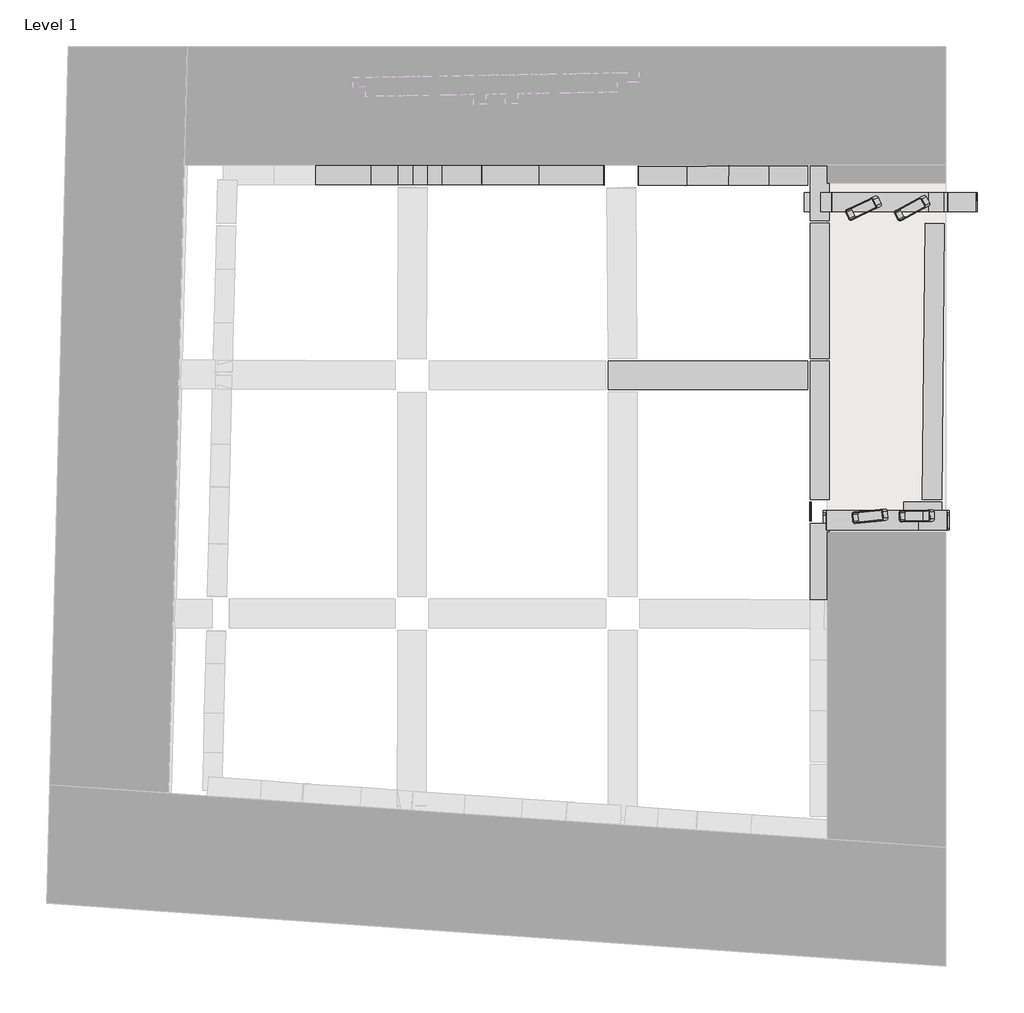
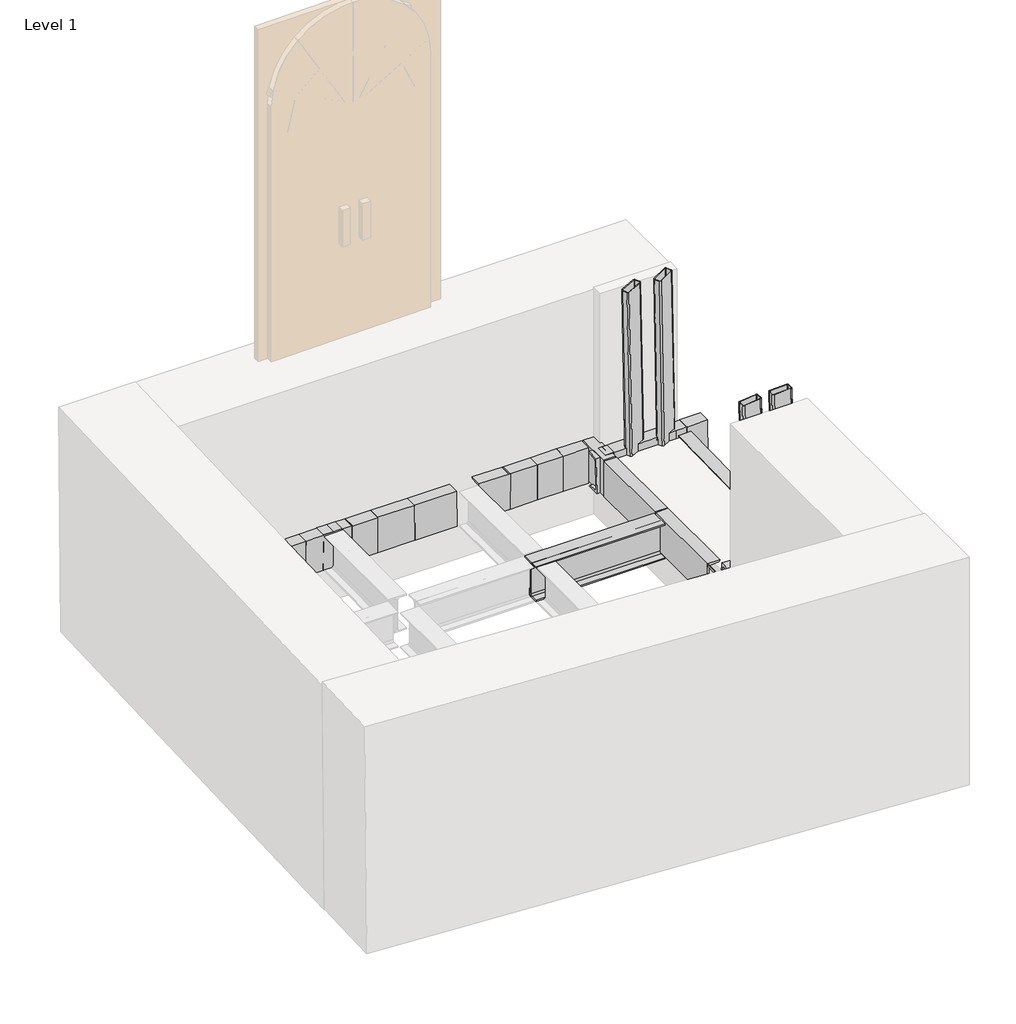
# One storey, part 2 of 2: 30 beams.
"""IFC4 building model written with IfcOpenShell, lengths in millimetres."""

from ifc_helpers import new_model, si_unit, point, frame, frame_2d, origin, place, context, project, spatial, polyline, circle_curve, ellipse_curve, trimmed, segment, composite_curve, outline, extrude, transform, mapped, element, save
from ifc_brep_helpers import plane_surface, cylinder_surface, revolved_surface, advanced_brep
from components import rectangular_and_square_hollow_sections_cefccb36, rectangular_and_square_hollow_sections_a6e25ca9, rectangular_and_square_hollow_sections_a873ca0a, rectangular_and_square_hollow_sections_d707e47e, travi_ipe_ipe300_d6dc1d4a, travi_ipe_ipe300_ce4784e4, travi_ipe_ipe300_c9cc1783, upn_upn300_07cd2886, upn_upn300_c2b881e5, upn_upn300_880bca7f, upn_upn300_fed2250c, upn_upn300_64b2cb6b, upn_upn300_74a305d1, upn_upn300_71728d14, upn_upn300_8f31fde6, upn_upn300_4b6d5451, upn_upn300_0a8c01f7, upn_upn300_1502331d, upn_upn300_e3bfa8e2, upn_upn300_8c717aac, upn_upn300_7125730d, upn_upn300_d5f8aff8, upn_upn300_71eba413

model = new_model("IFC4")

# Units and contexts
model_context = context("Model", 3, world=origin())
ifc_project = project(units=[si_unit("LENGTHUNIT", "METRE", prefix="MILLI")], contexts=[model_context])

# Site, building, storey
site = spatial("IfcSite", under=ifc_project)
building = spatial("IfcBuilding", under=site)
storey = spatial("IfcBuildingStorey", under=building, Name="Level 1", Elevation=-6640.0)

# Beams
placement = place(None, origin())
rectangular_and_square_hollow_sections_shape = rectangular_and_square_hollow_sections_cefccb36(model_context)
element("IfcBeam", 1, ObjectType="Rectangular and Square Hollow Sections : TREC160x60x6", at=placement, inside=storey, context=model_context, shape_type="MappedRepresentation", body=[
    mapped(rectangular_and_square_hollow_sections_shape, transform((3183.7188284, 259.2687084, -5886.258059), x_axis=(-0.022549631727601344, -0.0004992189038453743, 0.9997456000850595), y_axis=(0.022133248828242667, -0.9997550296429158, 0.0), z_axis=(0.9995006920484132, 0.0221276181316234, 0.022555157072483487))),
])
rectangular_and_square_hollow_sections_2_shape = rectangular_and_square_hollow_sections_a6e25ca9(model_context)
element("IfcBeam", 2, ObjectType="Rectangular and Square Hollow Sections : TREC160x60x6", at=placement, inside=storey, context=model_context, shape_type="MappedRepresentation", body=[
    mapped(rectangular_and_square_hollow_sections_2_shape, transform((2938.8993044, 257.8933349, -5888.378141), x_axis=(-0.02335436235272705, -0.0024253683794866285, 0.9997243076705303), y_axis=(0.10329523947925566, -0.9946507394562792, 0.0), z_axis=(0.99437652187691, 0.10326676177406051, 0.023479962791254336))),
])
rectangular_and_square_hollow_sections_3_shape = rectangular_and_square_hollow_sections_a873ca0a(model_context)
element("IfcBeam", 3, ObjectType="Rectangular and Square Hollow Sections : TREC160x60x6", at=placement, inside=storey, context=model_context, shape_type="MappedRepresentation", body=[
    mapped(rectangular_and_square_hollow_sections_3_shape, transform((3158.7757519, 1865.0672064, -5873.8420345), x_axis=(-0.02338648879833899, -0.012512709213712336, 0.9996481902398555), y_axis=(0.47175945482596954, -0.8817272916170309, 0.0), z_axis=(0.8814170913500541, 0.47159348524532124, 0.02652349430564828))),
])
rectangular_and_square_hollow_sections_4_shape = rectangular_and_square_hollow_sections_d707e47e(model_context)
element("IfcBeam", 4, ObjectType="Rectangular and Square Hollow Sections : TREC160x60x6", at=placement, inside=storey, context=model_context, shape_type="MappedRepresentation", body=[
    mapped(rectangular_and_square_hollow_sections_4_shape, transform((2904.5787599, 1865.8085669, -5880.730638), x_axis=(-0.024525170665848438, -0.011569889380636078, 0.9996322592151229), y_axis=(0.4266612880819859, -0.904411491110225, 0.0), z_axis=(0.9040789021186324, 0.42650438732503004, 0.02711727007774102))),
])
travi_ipe_ipe300_shape = travi_ipe_ipe300_d6dc1d4a(model_context)
element("IfcBeam", 5, ObjectType="Travi IPE : IPE300", at=placement, inside=storey, context=model_context, shape_type="MappedRepresentation", body=[
    mapped(travi_ipe_ipe300_shape, transform((2153.0244709, 993.0407309, -6640.0), x_axis=(1.0, 0.0, 0.0), y_axis=(0.0, 1.0, 0.0), z_axis=(0.0, 0.0, 1.0))),
])
travi_ipe_ipe300_2_shape = travi_ipe_ipe300_ce4784e4(model_context)
element("IfcBeam", 6, ObjectType="Travi IPE : IPE300", at=placement, inside=storey, context=model_context, shape_type="MappedRepresentation", body=[
    mapped(travi_ipe_ipe300_2_shape, transform((554.7545839, 2226.1737744, -6636.704172), x_axis=(1.1139964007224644e-07, -0.9999998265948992, 0.0005889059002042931), y_axis=(0.9999999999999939, 1.1139965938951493e-07, 0.0), z_axis=(-6.560391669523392e-11, 0.0005889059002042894, 0.9999998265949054))),
])
travi_ipe_ipe300_3_shape = travi_ipe_ipe300_c9cc1783(model_context)
element("IfcBeam", 7, ObjectType="Travi IPE : IPE300", at=placement, inside=storey, context=model_context, shape_type="MappedRepresentation", body=[
    mapped(travi_ipe_ipe300_3_shape, transform((1642.6296499, 2225.4560419, -6636.461382), x_axis=(1.3464367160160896e-07, -0.9999998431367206, -0.0005601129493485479), y_axis=(0.999999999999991, 1.3464369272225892e-07, 0.0), z_axis=(7.541567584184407e-11, -0.0005601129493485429, 0.9999998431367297))),
])
element("IfcBeam", 8, ObjectType="UPN : UPN300", at=placement, inside=storey, context=model_context, shape_type="AdvancedBrep", body=[
    advanced_brep(
    [(629.6569986, 1988.2216029, -6486.2416649), (632.8309692, 1988.2216029, -6786.2248743), (632.8309692, 2088.2216029, -6786.2248743), (632.7821178, 2088.2216029, -6781.6077551), (632.6977477, 2080.8590189, -6773.6336356), (632.6403168, 2012.9467709, -6768.2056371), (632.4715765, 1998.2216029, -6752.257398), (630.0163913, 1998.2216029, -6520.2091411), (629.847651, 2012.9467709, -6504.260902), (629.7902201, 2080.8590189, -6498.8329036), (629.70585, 2088.2216029, -6490.858784), (629.6569986, 2088.2216029, -6486.2416649), (337.1898446, 1988.2216029, -6489.336112), (339.1182482, 1988.2216029, -6789.3325), (339.1182482, 2088.2216029, -6789.3325), (339.0885676, 2088.2216029, -6784.7151781), (339.037307, 2080.8590189, -6776.7407082), (339.0024138, 2012.9467709, -6771.3124713), (338.8998926, 1998.2216029, -6755.3635316), (337.4082002, 1998.2216029, -6523.3050804), (337.305679, 2012.9467709, -6507.3561407), (337.2707858, 2080.8590189, -6501.9279038), (337.2195252, 2088.2216029, -6493.9534339), (337.1898446, 2088.2216029, -6489.336112)],
    [
        (0, 1),
        (1, 2),
        (2, 3),
        (3, 4, circle_curve(frame((632.7821178, 2080.2216029, -6781.6077551), z_axis=(0.9999440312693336, 0.0, 0.010579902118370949), x_axis=(0.0, 1.0, 0.0)), 8.0)),
        (4, 5),
        (5, 6, circle_curve(frame((632.4715765, 2014.2216029, -6752.257398), z_axis=(-0.9999440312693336, 0.0, -0.010579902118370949), x_axis=(0.0, 1.0, 0.0)), 16.0)),
        (6, 7),
        (7, 8, circle_curve(frame((630.0163913, 2014.2216029, -6520.2091411), z_axis=(-0.9999440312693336, 0.0, -0.010579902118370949), x_axis=(0.0, 1.0, 0.0)), 16.0)),
        (8, 9),
        (9, 10, circle_curve(frame((629.70585, 2080.2216029, -6490.858784), z_axis=(0.9999440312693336, 0.0, 0.010579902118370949), x_axis=(0.0, 1.0, 0.0)), 8.0)),
        (10, 11),
        (11, 0),
        (0, 12),
        (12, 13),
        (13, 1),
        (13, 14),
        (14, 2),
        (14, 15),
        (15, 3),
        (15, 16, ellipse_curve(frame((339.0885676, 2080.2216029, -6784.7151781), z_axis=(0.9999793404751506, 0.0, 0.006427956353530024), x_axis=(-0.0064279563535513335, 0.0, 0.9999793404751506)), 8.000069, 8.0)),
        (16, 4),
        (16, 17),
        (17, 5),
        (17, 18, ellipse_curve(frame((338.8998926, 2014.2216029, -6755.3635316), z_axis=(-0.9999793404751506, 0.0, -0.006427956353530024), x_axis=(0.0064279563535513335, 0.0, -0.9999793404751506)), 16.0001379, 16.0)),
        (18, 6),
        (18, 19),
        (19, 7),
        (19, 20, ellipse_curve(frame((337.4082002, 2014.2216029, -6523.3050804), z_axis=(-0.9999793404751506, 0.0, -0.006427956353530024), x_axis=(0.0064279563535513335, 0.0, -0.9999793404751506)), 16.0001379, 16.0)),
        (20, 8),
        (20, 21),
        (21, 9),
        (21, 22, ellipse_curve(frame((337.2195252, 2080.2216029, -6493.9534339), z_axis=(0.9999793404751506, 0.0, 0.006427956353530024), x_axis=(-0.0064279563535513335, 0.0, 0.9999793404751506)), 8.000069, 8.0)),
        (22, 10),
        (22, 23),
        (23, 11),
        (23, 12),
    ],
    [
        plane_surface(frame((631.2439839, 2015.2216029, -6636.2332696), z_axis=(0.9999440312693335, 0.0, 0.010579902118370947), x_axis=(-0.010579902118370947, 0.0, 0.9999440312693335))),
        plane_surface(frame((629.6569986, 1988.2216029, -6486.2416649), z_axis=(0.0, -1.0000000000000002, 0.0), x_axis=(-0.9999440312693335, 0.0, -0.010579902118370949))),
        plane_surface(frame((632.8309692, 1988.2216029, -6786.2248743), z_axis=(0.010579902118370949, 0.0, -0.9999440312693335), x_axis=(-0.9999440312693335, 0.0, -0.010579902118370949))),
        plane_surface(frame((632.8309692, 2088.2216029, -6786.2248743), z_axis=(0.0, 1.0000000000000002, 0.0), x_axis=(-0.9999440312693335, 0.0, -0.010579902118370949))),
        cylinder_surface(frame((632.7821178, 2080.2216029, -6781.6077551), z_axis=(0.9999440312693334, 0.0, 0.010579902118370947), x_axis=(0.0, 1.0, 0.0)), 8.0),
        plane_surface(frame((632.6616908, 2038.2216029, -6770.2257698), z_axis=(-0.010546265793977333, 0.07967700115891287, 0.9967649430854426), x_axis=(-0.9999440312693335, 0.0, -0.010579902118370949))),
        revolved_surface(polyline([(338.83346235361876, 2030.2216029, -6755.364234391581), (632.4715765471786, 2030.2216029, -6752.2573979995)]), (632.4715765, 2014.2216029, -6752.257398), (-0.9999440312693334, 0.0, -0.010579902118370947)),
        plane_surface(frame((632.4715765, 1998.2216029, -6752.257398), z_axis=(0.0, 1.0000000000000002, 0.0), x_axis=(-0.9999440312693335, 0.0, -0.010579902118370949))),
        revolved_surface(polyline([(337.34176995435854, 2030.2216029, -6523.3057832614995), (630.0163913, 2030.2216029, -6520.2091411)]), (630.0163913, 2014.2216029, -6520.2091411), (-0.9999440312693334, 0.0, -0.010579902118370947)),
        plane_surface(frame((629.826277, 2038.2216029, -6502.2407694), z_axis=(0.010546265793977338, 0.07967700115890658, -0.9967649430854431), x_axis=(-0.9999440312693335, 0.0, -0.010579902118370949))),
        cylinder_surface(frame((629.70585, 2080.2216029, -6490.858784), z_axis=(0.9999440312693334, 0.0, 0.010579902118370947), x_axis=(0.0, 1.0, 0.0)), 8.0),
        plane_surface(frame((629.70585, 2088.2216029, -6490.858784), z_axis=(0.0, 1.0000000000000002, 0.0), x_axis=(-0.9999440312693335, 0.0, -0.010579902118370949))),
        plane_surface(frame((629.6569986, 2088.2216029, -6486.2416649), z_axis=(-0.010579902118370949, 0.0, 0.9999440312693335), x_axis=(-0.9999440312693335, 0.0, -0.010579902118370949))),
        plane_surface(frame((337.1898446, 2015.2216029, -6489.336112), z_axis=(-0.9999793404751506, 0.0, -0.006427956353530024), x_axis=(0.006427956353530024, 0.0, -0.9999793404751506))),
    ],
    [
        (0, [[1, 2, 3, 4, 5, 6, 7, 8, 9, 10, 11, 12]]),
        (1, [[-1, 13, 14, 15]]),
        (2, [[-2, -15, 16, 17]]),
        (3, [[-3, -17, 18, 19]]),
        (4, [[-4, -19, 20, 21]]),
        (5, [[-21, 22, 23, -5]]),
        (6, [[-6, -23, 24, 25]]),
        (7, [[-7, -25, 26, 27]]),
        (8, [[-8, -27, 28, 29]]),
        (9, [[-29, 30, 31, -9]]),
        (10, [[-10, -31, 32, 33]]),
        (11, [[-11, -33, 34, 35]]),
        (12, [[-12, -35, 36, -13]]),
        (13, [[-36, -34, -32, -30, -28, -26, -24, -22, -20, -18, -16, -14]]),
    ],
),
])
element("IfcBeam", 9, ObjectType="UPN : UPN300", at=placement, inside=storey, context=model_context, shape_type="AdvancedBrep", body=[
    advanced_brep(
    [(339.1182482, 1988.2216029, -6789.3325), (337.1898446, 1988.2216029, -6489.336112), (45.4870477, 1988.2216029, -6490.0), (45.8284331, 1988.2216029, -6790.0), (339.1182482, 2088.2216029, -6789.3325), (45.8284331, 2088.2216029, -6790.0), (339.0885676, 2088.2216029, -6784.7151781), (45.8231788, 2088.2216029, -6785.3826224), (339.037307, 2080.8590189, -6776.7407082), (45.8141041, 2080.8590189, -6777.4080566), (45.807927, 2012.9467709, -6771.9797543), (339.0024138, 2012.9467709, -6771.3124713), (338.8998926, 1998.2216029, -6755.3635316), (45.7897776, 1998.2216029, -6756.0306225), (337.4082002, 1998.2216029, -6523.3050804), (45.5257032, 1998.2216029, -6523.9693775), (337.305679, 2012.9467709, -6507.3561407), (45.5075539, 2012.9467709, -6508.0202457), (45.5013767, 2080.8590189, -6502.5919434), (337.2707858, 2080.8590189, -6501.9279038), (337.2195252, 2088.2216029, -6493.9534339), (45.4923021, 2088.2216029, -6494.6173776), (337.1898446, 2088.2216029, -6489.336112), (45.4870477, 2088.2216029, -6490.0)],
    [
        (0, 1),
        (1, 2),
        (2, 3),
        (3, 0),
        (4, 0),
        (3, 5),
        (5, 4),
        (6, 4),
        (5, 7),
        (7, 6),
        (8, 6, ellipse_curve(frame((339.0885676, 2080.2216029, -6784.7151781), z_axis=(-0.9999793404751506, 0.0, -0.006427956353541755), x_axis=(0.006427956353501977, 0.0, -0.9999793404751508)), 8.000069, 8.0)),
        (7, 9, ellipse_curve(frame((45.8231788, 2080.2216029, -6785.3826224), z_axis=(0.9999993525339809, 0.0, 0.0011379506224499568), x_axis=(-0.0011379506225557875, 0.0, 0.9999993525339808)), 8.0000052, 8.0)),
        (9, 8),
        (9, 10),
        (10, 11),
        (11, 8),
        (12, 11, ellipse_curve(frame((338.8998926, 2014.2216029, -6755.3635316), z_axis=(0.9999793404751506, 0.0, 0.006427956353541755), x_axis=(-0.006427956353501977, 0.0, 0.9999793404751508)), 16.0001379, 16.0)),
        (10, 13, ellipse_curve(frame((45.7897776, 2014.2216029, -6756.0306225), z_axis=(-0.9999993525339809, 0.0, -0.0011379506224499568), x_axis=(0.0011379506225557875, 0.0, -0.9999993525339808)), 16.0000104, 16.0)),
        (13, 12),
        (14, 12),
        (13, 15),
        (15, 14),
        (16, 14, ellipse_curve(frame((337.4082002, 2014.2216029, -6523.3050804), z_axis=(0.9999793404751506, 0.0, 0.006427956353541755), x_axis=(-0.006427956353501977, 0.0, 0.9999793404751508)), 16.0001379, 16.0)),
        (15, 17, ellipse_curve(frame((45.5257032, 2014.2216029, -6523.9693775), z_axis=(-0.9999993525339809, 0.0, -0.0011379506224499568), x_axis=(0.0011379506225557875, 0.0, -0.9999993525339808)), 16.0000104, 16.0)),
        (17, 16),
        (17, 18),
        (18, 19),
        (19, 16),
        (20, 19, ellipse_curve(frame((337.2195252, 2080.2216029, -6493.9534339), z_axis=(-0.9999793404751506, 0.0, -0.006427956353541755), x_axis=(0.006427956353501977, 0.0, -0.9999793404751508)), 8.000069, 8.0)),
        (18, 21, ellipse_curve(frame((45.4923021, 2080.2216029, -6494.6173776), z_axis=(0.9999993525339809, 0.0, 0.0011379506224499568), x_axis=(-0.0011379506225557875, 0.0, 0.9999993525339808)), 8.0000052, 8.0)),
        (21, 20),
        (22, 20),
        (21, 23),
        (23, 22),
        (1, 22),
        (23, 2),
    ],
    [
        plane_surface(frame((337.7641298, 1988.2216029, -6489.3348049), z_axis=(0.0, -1.0, 0.0), x_axis=(-0.9999974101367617, 0.0, -0.0022758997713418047))),
        plane_surface(frame((338.4468997, 1988.2216029, -6789.334028), z_axis=(0.0022758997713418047, 0.0, -0.9999974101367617), x_axis=(-0.9999974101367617, 0.0, -0.0022758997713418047))),
        plane_surface(frame((338.4468997, 2088.2216029, -6789.334028), z_axis=(0.0, 1.0, 0.0), x_axis=(-0.9999974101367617, 0.0, -0.0022758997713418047))),
        cylinder_surface(frame((338.436391, 2080.2216029, -6784.7166624), z_axis=(0.9999974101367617, 0.0, 0.0022758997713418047), x_axis=(0.0, 1.0, 0.0)), 8.0),
        plane_surface(frame((338.4104853, 2038.2216029, -6773.3340694), z_axis=(-0.0022686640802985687, 0.07967700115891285, 0.9968181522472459), x_axis=(-0.9999974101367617, 0.0, -0.0022758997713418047))),
        revolved_surface(polyline([(45.771570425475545, 2030.2216029, -6756.03066398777), (338.96632639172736, 2030.2216029, -6755.363380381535)]), (338.3695888, 2014.2216029, -6755.3647385), (-0.9999974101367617, 0.0, -0.0022758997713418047)),
        plane_surface(frame((338.3695888, 1998.2216029, -6755.3647385), z_axis=(0.0, 1.0, 0.0), x_axis=(-0.9999974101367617, 0.0, -0.0022758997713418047))),
        revolved_surface(polyline([(45.507496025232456, 2030.2216029, -6523.969418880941), (337.4746339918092, 2030.2216029, -6523.3049292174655)]), (337.8414407, 2014.2216029, -6523.3040944), (-0.9999974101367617, 0.0, -0.0022758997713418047)),
        plane_surface(frame((337.8005442, 2038.2216029, -6505.3347635), z_axis=(0.00226866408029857, 0.07967700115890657, -0.9968181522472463), x_axis=(-0.9999974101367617, 0.0, -0.0022758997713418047))),
        cylinder_surface(frame((337.7746385, 2080.2216029, -6493.9521705), z_axis=(0.9999974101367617, 0.0, 0.0022758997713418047), x_axis=(0.0, 1.0, 0.0)), 8.0),
        plane_surface(frame((337.7746385, 2088.2216029, -6493.9521705), z_axis=(0.0, 1.0, 0.0), x_axis=(-0.9999974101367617, 0.0, -0.0022758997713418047))),
        plane_surface(frame((337.7641298, 2088.2216029, -6489.3348049), z_axis=(-0.0022758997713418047, 0.0, 0.9999974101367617), x_axis=(-0.9999974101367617, 0.0, -0.0022758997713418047))),
        plane_surface(frame((337.1898446, 2015.2216029, -6489.336112), z_axis=(0.9999793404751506, 0.0, 0.006427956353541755), x_axis=(0.006427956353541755, 0.0, -0.9999793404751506))),
        plane_surface(frame((45.4870477, 2015.2216029, -6490.0), z_axis=(-0.9999993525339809, 0.0, -0.0011379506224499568), x_axis=(0.0, 1.0, 0.0))),
    ],
    [
        (0, [[1, 2, 3, 4]]),
        (1, [[5, -4, 6, 7]]),
        (2, [[8, -7, 9, 10]]),
        (3, [[11, -10, 12, 13]]),
        (4, [[-13, 14, 15, 16]]),
        (5, [[17, -15, 18, 19]]),
        (6, [[20, -19, 21, 22]]),
        (7, [[23, -22, 24, 25]]),
        (8, [[-25, 26, 27, 28]]),
        (9, [[29, -27, 30, 31]]),
        (10, [[32, -31, 33, 34]]),
        (11, [[35, -34, 36, -2]]),
        (12, [[-1, -5, -8, -11, -16, -17, -20, -23, -28, -29, -32, -35]]),
        (13, [[-36, -33, -30, -26, -24, -21, -18, -14, -12, -9, -6, -3]]),
    ],
),
])
element("IfcBeam", 10, ObjectType="UPN : UPN300", at=placement, inside=storey, context=model_context, shape_type="SweptSolid", body=[
    extrude(outline(composite_curve([segment(polyline([(150.0000001, 27.0), (150.0000001, -73.0), (145.3826224, -73.0)]), True, "CONTINUOUS"), segment(trimmed(circle_curve(frame_2d((145.3826224, -65.0)), 8.0), [point((145.3826224, -73.0))], [point((137.4080565, -65.637416))], False, "CARTESIAN"), True, "CONTINUOUS"), segment(polyline([(137.4080565, -65.637416), (131.9797543, 2.274832)]), True, "CONTINUOUS"), segment(trimmed(circle_curve(frame_2d((116.0306225, 1.0)), 16.0), [point((131.9797543, 2.274832))], [point((116.0306225, 17.0))], True, "CARTESIAN"), True, "CONTINUOUS"), segment(polyline([(116.0306225, 17.0), (-116.0306225, 17.0)]), True, "CONTINUOUS"), segment(trimmed(circle_curve(frame_2d((-116.0306225, 1.0)), 16.0), [point((-116.0306225, 17.0))], [point((-131.9797543, 2.274832))], True, "CARTESIAN"), True, "CONTINUOUS"), segment(polyline([(-131.9797543, 2.274832), (-137.4080565, -65.637416)]), True, "CONTINUOUS"), segment(trimmed(circle_curve(frame_2d((-145.3826224, -65.0)), 8.0), [point((-137.4080565, -65.637416))], [point((-145.3826224, -73.0))], False, "CARTESIAN"), True, "CONTINUOUS"), segment(polyline([(-145.3826224, -73.0), (-150.0, -73.0), (-150.0, 27.0), (150.0000001, 27.0)]), True, "CONTINUOUS")], self_intersect=False)), frame((2627.5154128, 259.6427499, -6640.2436916), z_axis=(0.9999631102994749, 0.0, 0.00858941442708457), x_axis=(-0.00858941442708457, 0.0, 0.9999631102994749)), (0.0, 0.0, 1.0), 5.5),
])
element("IfcBeam", 11, ObjectType="UPN : UPN300", at=placement, inside=storey, context=model_context, shape_type="SweptSolid", body=[
    extrude(outline(composite_curve([segment(polyline([(149.9999999, -27.0), (-150.0, -27.0), (-150.0, 73.0), (-145.3826225, 73.0)]), True, "CONTINUOUS"), segment(trimmed(circle_curve(frame_2d((-145.3826225, 65.0)), 8.0), [point((-145.3826225, 73.0))], [point((-137.4080566, 65.637416))], False, "CARTESIAN"), True, "CONTINUOUS"), segment(polyline([(-137.4080566, 65.637416), (-131.9797543, -2.274832)]), True, "CONTINUOUS"), segment(trimmed(circle_curve(frame_2d((-116.0306226, -1.0)), 16.0), [point((-131.9797543, -2.274832))], [point((-116.0306226, -17.0))], True, "CARTESIAN"), True, "CONTINUOUS"), segment(polyline([(-116.0306226, -17.0), (116.0306225, -17.0)]), True, "CONTINUOUS"), segment(trimmed(circle_curve(frame_2d((116.0306225, -1.0)), 16.0), [point((116.0306225, -17.0))], [point((131.9797542, -2.274832))], True, "CARTESIAN"), True, "CONTINUOUS"), segment(polyline([(131.9797542, -2.274832), (137.4080565, 65.637416)]), True, "CONTINUOUS"), segment(trimmed(circle_curve(frame_2d((145.3826224, 65.0)), 8.0), [point((137.4080565, 65.637416))], [point((145.3826224, 73.0))], False, "CARTESIAN"), True, "CONTINUOUS"), segment(polyline([(145.3826224, 73.0), (149.9999999, 73.0), (149.9999999, -27.0)]), True, "CONTINUOUS")], self_intersect=False)), frame((3200.4106612, 259.6427499, -6635.3232233), z_axis=(0.999466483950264, 0.0, 0.032661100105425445), x_axis=(-0.032661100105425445, 0.0, 0.999466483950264)), (0.0, 0.0, 1.0), 148.8),
])
element("IfcBeam", 12, ObjectType="UPN : UPN300", at=placement, inside=storey, context=model_context, shape_type="SweptSolid", body=[
    extrude(outline(composite_curve([segment(polyline([(150.0, 27.0), (150.0, -73.0), (145.3826224, -73.0)]), True, "CONTINUOUS"), segment(trimmed(circle_curve(frame_2d((145.3826224, -65.0)), 8.0), [point((145.3826224, -73.0))], [point((137.4080566, -65.637416))], False, "CARTESIAN"), True, "CONTINUOUS"), segment(polyline([(137.4080566, -65.637416), (131.9797543, 2.274832)]), True, "CONTINUOUS"), segment(trimmed(circle_curve(frame_2d((116.0306225, 1.0)), 16.0), [point((131.9797543, 2.274832))], [point((116.0306225, 17.0))], True, "CARTESIAN"), True, "CONTINUOUS"), segment(polyline([(116.0306225, 17.0), (-116.0306225, 17.0)]), True, "CONTINUOUS"), segment(trimmed(circle_curve(frame_2d((-116.0306225, 1.0)), 16.0), [point((-116.0306225, 17.0))], [point((-131.9797542, 2.274832))], True, "CARTESIAN"), True, "CONTINUOUS"), segment(polyline([(-131.9797542, 2.274832), (-137.4080566, -65.637416)]), True, "CONTINUOUS"), segment(trimmed(circle_curve(frame_2d((-145.3826224, -65.0)), 8.0), [point((-137.4080566, -65.637416))], [point((-145.3826224, -73.0))], False, "CARTESIAN"), True, "CONTINUOUS"), segment(polyline([(-145.3826224, -73.0), (-150.0, -73.0), (-150.0, 27.0), (150.0, 27.0)]), True, "CONTINUOUS")], self_intersect=False)), frame((3331.6065302, 1874.5425779, -6628.1046716), z_axis=(0.9998450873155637, 0.0, 0.017601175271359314), x_axis=(-0.017601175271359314, 0.0, 0.9998450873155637)), (0.0, 0.0, 1.0), 167.1),
])
element("IfcBeam", 13, ObjectType="UPN : UPN300", at=placement, inside=storey, context=model_context, shape_type="SweptSolid", body=[
    extrude(outline(composite_curve([segment(polyline([(150.0, 27.0), (150.0, -73.0), (145.3826225, -73.0)]), True, "CONTINUOUS"), segment(trimmed(circle_curve(frame_2d((145.3826225, -65.0)), 8.0), [point((145.3826225, -73.0))], [point((137.4080566, -65.637416))], False, "CARTESIAN"), True, "CONTINUOUS"), segment(polyline([(137.4080566, -65.637416), (131.9797544, 2.274832)]), True, "CONTINUOUS"), segment(trimmed(circle_curve(frame_2d((116.0306225, 1.0)), 16.0), [point((131.9797544, 2.274832))], [point((116.0306225, 17.0))], True, "CARTESIAN"), True, "CONTINUOUS"), segment(polyline([(116.0306225, 17.0), (-116.0306225, 17.0)]), True, "CONTINUOUS"), segment(trimmed(circle_curve(frame_2d((-116.0306225, 1.0)), 16.0), [point((-116.0306225, 17.0))], [point((-131.9797543, 2.274832))], True, "CARTESIAN"), True, "CONTINUOUS"), segment(polyline([(-131.9797543, 2.274832), (-137.4080565, -65.637416)]), True, "CONTINUOUS"), segment(trimmed(circle_curve(frame_2d((-145.3826224, -65.0)), 8.0), [point((-137.4080565, -65.637416))], [point((-145.3826224, -73.0))], False, "CARTESIAN"), True, "CONTINUOUS"), segment(polyline([(-145.3826224, -73.0), (-149.9999999, -73.0), (-149.9999999, 27.0), (150.0, 27.0)]), True, "CONTINUOUS")], self_intersect=False)), frame((3278.0405389, 259.6427499, -6653.7077167), z_axis=(-0.9987262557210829, 0.0, 0.05045657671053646), x_axis=(0.05045657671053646, 0.0, 0.9987262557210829)), (0.0, 0.0, 1.0), 574.5),
])
element("IfcBeam", 14, ObjectType="UPN : UPN300", at=placement, inside=storey, context=model_context, shape_type="SweptSolid", body=[
    extrude(outline(composite_curve([segment(polyline([(150.0, 27.0), (150.0, -73.0), (145.3826224, -73.0)]), True, "CONTINUOUS"), segment(trimmed(circle_curve(frame_2d((145.3826224, -65.0)), 8.0), [point((145.3826224, -73.0))], [point((137.4080566, -65.637416))], False, "CARTESIAN"), True, "CONTINUOUS"), segment(polyline([(137.4080566, -65.637416), (131.9797543, 2.274832)]), True, "CONTINUOUS"), segment(trimmed(circle_curve(frame_2d((116.0306225, 1.0)), 16.0), [point((131.9797543, 2.274832))], [point((116.0306225, 17.0))], True, "CARTESIAN"), True, "CONTINUOUS"), segment(polyline([(116.0306225, 17.0), (-116.0306226, 17.0)]), True, "CONTINUOUS"), segment(trimmed(circle_curve(frame_2d((-116.0306226, 1.0)), 16.0), [point((-116.0306226, 17.0))], [point((-131.9797543, 2.274832))], True, "CARTESIAN"), True, "CONTINUOUS"), segment(polyline([(-131.9797543, 2.274832), (-137.4080566, -65.637416)]), True, "CONTINUOUS"), segment(trimmed(circle_curve(frame_2d((-145.3826225, -65.0)), 8.0), [point((-137.4080566, -65.637416))], [point((-145.3826225, -73.0))], False, "CARTESIAN"), True, "CONTINUOUS"), segment(polyline([(-145.3826225, -73.0), (-150.0, -73.0), (-150.0, 27.0), (150.0, 27.0)]), True, "CONTINUOUS")], self_intersect=False)), frame((3175.9892952, 1874.5425779, -6630.8441637), z_axis=(0.9998335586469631, 0.0, 0.018244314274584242), x_axis=(-0.018244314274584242, 0.0, 0.9998335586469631)), (0.0, 0.0, 1.0), 173.3),
])
upn_upn300_shape = upn_upn300_07cd2886(model_context)
element("IfcBeam", 15, ObjectType="UPN : UPN300", at=placement, inside=storey, context=model_context, shape_type="MappedRepresentation", body=[
    mapped(upn_upn300_shape, transform((639.4776059, 2015.2716654, -6638.409257), x_axis=(-0.9997668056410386, -0.0005907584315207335, 0.021586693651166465), y_axis=(0.0005908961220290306, -0.9999998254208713, 0.0), z_axis=(0.021586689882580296, 1.275549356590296e-05, 0.999766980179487))),
])
upn_upn300_2_shape = upn_upn300_c2b881e5(model_context)
element("IfcBeam", 16, ObjectType="UPN : UPN300", at=placement, inside=storey, context=model_context, shape_type="MappedRepresentation", body=[
    mapped(upn_upn300_2_shape, transform((3243.2475989, 259.6427119, -6634.9547495), x_axis=(-0.9999631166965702, 8.875234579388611e-07, -0.00858866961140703), y_axis=(-8.875561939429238e-07, -0.9999999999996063, 0.0), z_axis=(-0.008588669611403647, 7.622926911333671e-09, 0.9999631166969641))),
])
upn_upn300_3_shape = upn_upn300_880bca7f(model_context)
element("IfcBeam", 17, ObjectType="UPN : UPN300", at=placement, inside=storey, context=model_context, shape_type="MappedRepresentation", body=[
    mapped(upn_upn300_3_shape, transform((3294.3903334, 1067.0926259, -6631.600113), x_axis=(-0.01031400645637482, -0.9999399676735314, -0.0036989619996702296), y_axis=(0.999946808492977, -0.010314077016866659, 0.0), z_axis=(-3.8151378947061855e-05, -0.0036987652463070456, 0.9999931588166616))),
])
upn_upn300_4_shape = upn_upn300_fed2250c(model_context)
element("IfcBeam", 18, ObjectType="UPN : UPN300", at=placement, inside=storey, context=model_context, shape_type="MappedRepresentation", body=[
    mapped(upn_upn300_4_shape, transform((2655.8855194, 1433.7916544, -6640.0), x_axis=(0.0, 1.0, 0.0), y_axis=(-1.0, 0.0, 0.0), z_axis=(0.0, 0.0, 1.0))),
])
upn_upn300_5_shape = upn_upn300_64b2cb6b(model_context)
element("IfcBeam", 19, ObjectType="UPN : UPN300", at=placement, inside=storey, context=model_context, shape_type="MappedRepresentation", body=[
    mapped(upn_upn300_5_shape, transform((2655.8855194, 626.3417404, -6640.0), x_axis=(0.0, 1.0, 0.0), y_axis=(-1.0, 0.0, 0.0), z_axis=(0.0, 0.0, 1.0))),
])
upn_upn300_6_shape = upn_upn300_74a305d1(model_context)
element("IfcBeam", 20, ObjectType="UPN : UPN300", at=placement, inside=storey, context=model_context, shape_type="MappedRepresentation", body=[
    mapped(upn_upn300_6_shape, transform((2529.0912094, 2013.3156799, -6640.0), x_axis=(-0.9999976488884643, 0.002168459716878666, 0.0), y_axis=(-0.002168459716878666, -0.9999976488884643, 0.0), z_axis=(0.0, 0.0, 1.0))),
])
upn_upn300_7_shape = upn_upn300_71728d14(model_context)
element("IfcBeam", 21, ObjectType="UPN : UPN300", at=placement, inside=storey, context=model_context, shape_type="MappedRepresentation", body=[
    mapped(upn_upn300_7_shape, transform((2655.8855194, 1943.7916544, -6640.0), x_axis=(0.0, 1.0, 0.0), y_axis=(-1.0, 0.0, 0.0), z_axis=(0.0, 0.0, 1.0))),
])
upn_upn300_8_shape = upn_upn300_8f31fde6(model_context)
element("IfcBeam", 22, ObjectType="UPN : UPN300", at=placement, inside=storey, context=model_context, shape_type="MappedRepresentation", body=[
    mapped(upn_upn300_8_shape, transform((2974.8360539, 1874.5422979, -6634.433306), x_axis=(0.9998610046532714, 5.410436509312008e-06, 0.01667247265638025), y_axis=(-5.411188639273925e-06, 0.9999999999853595, 0.0), z_axis=(-0.016672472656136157, -9.021789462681e-08, 0.99986100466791))),
])
upn_upn300_9_shape = upn_upn300_4b6d5451(model_context)
element("IfcBeam", 23, ObjectType="UPN : UPN300", at=placement, inside=storey, context=model_context, shape_type="MappedRepresentation", body=[
    mapped(upn_upn300_9_shape, transform((2789.4884674, 1874.5422979, -6637.6480685), x_axis=(0.9998450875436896, -2.0954374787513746e-06, 0.017601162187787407), y_axis=(2.095762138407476e-06, 0.999999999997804, 0.0), z_axis=(-0.017601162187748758, 3.688784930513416e-08, 0.9998450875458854))),
])
upn_upn300_10_shape = upn_upn300_0a8c01f7(model_context)
element("IfcBeam", 24, ObjectType="UPN : UPN300", at=placement, inside=storey, context=model_context, shape_type="MappedRepresentation", body=[
    mapped(upn_upn300_10_shape, transform((1436.6881124, 2014.6605484, -6638.663142), x_axis=(-0.999939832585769, 0.004245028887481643, -0.010114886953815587), y_axis=(-0.004245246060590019, -0.9999909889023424, 0.0), z_axis=(-0.010114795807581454, 4.2940183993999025e-05, 0.9999488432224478))),
])
upn_upn300_11_shape = upn_upn300_1502331d(model_context)
element("IfcBeam", 25, ObjectType="UPN : UPN300", at=placement, inside=storey, context=model_context, shape_type="MappedRepresentation", body=[
    mapped(upn_upn300_11_shape, transform((1079.8565944, 2015.2840169, -6640.148718), x_axis=(-0.9999907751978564, -0.0016622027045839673, 0.003960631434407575), y_axis=(0.0016622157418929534, -0.9999986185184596, 0.0), z_axis=(0.003960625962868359, 6.583423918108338e-06, 0.9999921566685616))),
])
upn_upn300_12_shape = upn_upn300_e3bfa8e2(model_context)
element("IfcBeam", 26, ObjectType="UPN : UPN300", at=placement, inside=storey, context=model_context, shape_type="MappedRepresentation", body=[
    mapped(upn_upn300_12_shape, transform((826.5836234, 2015.1774664, -6639.894833), x_axis=(-0.9999933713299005, 0.0014090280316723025, -0.0033573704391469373), y_axis=(-0.0014090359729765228, -0.9999990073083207, 0.0), z_axis=(-0.003357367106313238, 4.73065572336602e-06, 0.999994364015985))),
])
upn_upn300_13_shape = upn_upn300_8c717aac(model_context)
element("IfcBeam", 27, ObjectType="UPN : UPN300", at=placement, inside=storey, context=model_context, shape_type="MappedRepresentation", body=[
    mapped(upn_upn300_13_shape, transform((1800.1540464, 2012.3880734, -6638.2899705), x_axis=(-0.9999016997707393, 0.00887517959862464, 0.010854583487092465), y_axis=(-0.008875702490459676, -0.9999606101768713, 0.0), z_axis=(0.010854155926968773, -9.634205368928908e-05, 0.9999410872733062))),
])
upn_upn300_14_shape = upn_upn300_7125730d(model_context)
element("IfcBeam", 28, ObjectType="UPN : UPN300", at=placement, inside=storey, context=model_context, shape_type="MappedRepresentation", body=[
    mapped(upn_upn300_14_shape, transform((2074.5966109, 2012.5187904, -6640.0), x_axis=(-0.9999145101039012, -0.013075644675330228, 0.0), y_axis=(0.013075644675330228, -0.9999145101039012, 0.0), z_axis=(0.0, 0.0, 1.0))),
])
upn_upn300_15_shape = upn_upn300_d5f8aff8(model_context)
element("IfcBeam", 29, ObjectType="UPN : UPN300", at=placement, inside=storey, context=model_context, shape_type="MappedRepresentation", body=[
    mapped(upn_upn300_15_shape, transform((2296.9058534, 2013.8191654, -6640.0), x_axis=(-0.9999976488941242, 0.0021684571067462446, 0.0), y_axis=(-0.0021684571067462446, -0.9999976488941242, 0.0), z_axis=(0.0, 0.0, 1.0))),
])
upn_upn300_16_shape = upn_upn300_71eba413(model_context)
element("IfcBeam", 30, ObjectType="UPN : UPN300", at=placement, inside=storey, context=model_context, shape_type="MappedRepresentation", body=[
    mapped(upn_upn300_16_shape, transform((2655.6114009, 2.6461944, -6640.0), x_axis=(0.0010666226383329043, 0.9999994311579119, 0.0), y_axis=(-0.9999994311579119, 0.0010666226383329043, 0.0), z_axis=(0.0, 0.0, 1.0))),
])

save(model, "model.ifc")
